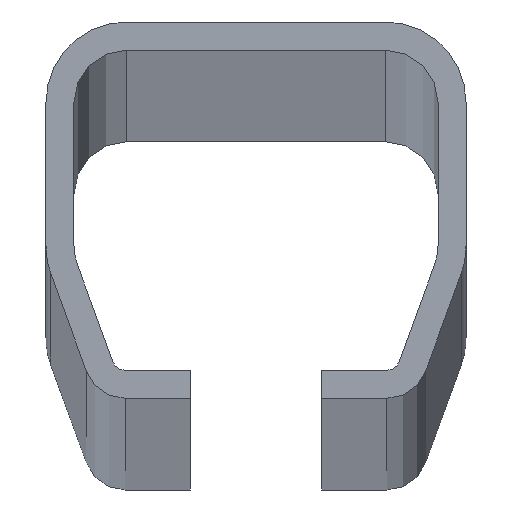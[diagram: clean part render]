
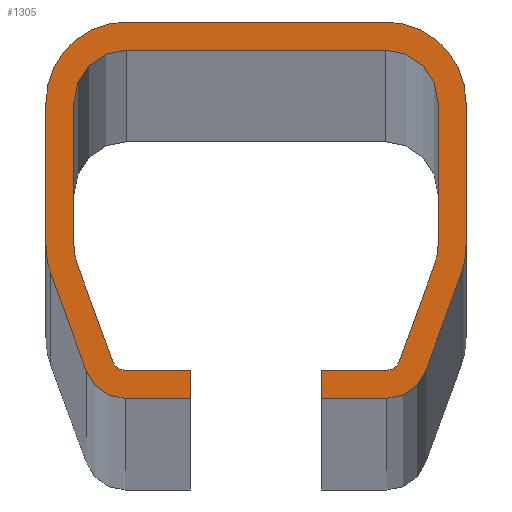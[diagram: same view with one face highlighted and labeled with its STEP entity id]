
A CAD part, top view. The second image highlights one B-rep face of the part: STEP entity #1305.
In plain terms, the highlighted planar face has unit normal (0, 0, 1).
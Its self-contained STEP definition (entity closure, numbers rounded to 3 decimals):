
#23=CIRCLE('',#1350,4.7);
#25=CIRCLE('',#1354,9.2);
#27=CIRCLE('',#1358,9.2);
#29=CIRCLE('',#1362,9.2);
#31=CIRCLE('',#1366,9.2);
#33=CIRCLE('',#1370,4.7);
#35=CIRCLE('',#1376,1.5);
#37=CIRCLE('',#1380,6.);
#39=CIRCLE('',#1384,6.);
#41=CIRCLE('',#1388,6.);
#43=CIRCLE('',#1392,6.);
#45=CIRCLE('',#1396,1.5);
#127=FACE_OUTER_BOUND('',#205,.T.);
#205=EDGE_LOOP('',(#1123,#1124,#1125,#1126,#1127,#1128,#1129,#1130,#1131,
#1132,#1133,#1134,#1135,#1136,#1137,#1138,#1139,#1140,#1141,#1142,#1143,
#1144,#1145,#1146,#1147,#1148,#1149,#1150));
#305=LINE('',#1961,#461);
#309=LINE('',#1973,#465);
#313=LINE('',#1985,#469);
#317=LINE('',#1997,#473);
#321=LINE('',#2009,#477);
#325=LINE('',#2021,#481);
#328=LINE('',#2027,#484);
#331=LINE('',#2033,#487);
#335=LINE('',#2045,#491);
#339=LINE('',#2057,#495);
#343=LINE('',#2069,#499);
#347=LINE('',#2081,#503);
#351=LINE('',#2093,#507);
#355=LINE('',#2105,#511);
#358=LINE('',#2111,#514);
#361=LINE('',#2116,#517);
#461=VECTOR('',#1591,11.901);
#465=VECTOR('',#1603,16.378);
#469=VECTOR('',#1615,29.6);
#473=VECTOR('',#1627,16.378);
#477=VECTOR('',#1639,11.901);
#481=VECTOR('',#1651,7.458);
#484=VECTOR('',#1656,3.2);
#487=VECTOR('',#1661,7.458);
#491=VECTOR('',#1673,11.901);
#495=VECTOR('',#1685,16.378);
#499=VECTOR('',#1697,29.6);
#503=VECTOR('',#1709,16.378);
#507=VECTOR('',#1721,11.901);
#511=VECTOR('',#1733,7.458);
#514=VECTOR('',#1738,3.2);
#517=VECTOR('',#1743,7.458);
#583=VERTEX_POINT('',#1951);
#584=VERTEX_POINT('',#1952);
#587=VERTEX_POINT('',#1960);
#589=VERTEX_POINT('',#1966);
#591=VERTEX_POINT('',#1972);
#593=VERTEX_POINT('',#1978);
#595=VERTEX_POINT('',#1984);
#597=VERTEX_POINT('',#1990);
#599=VERTEX_POINT('',#1996);
#601=VERTEX_POINT('',#2002);
#603=VERTEX_POINT('',#2008);
#605=VERTEX_POINT('',#2014);
#607=VERTEX_POINT('',#2020);
#609=VERTEX_POINT('',#2026);
#611=VERTEX_POINT('',#2032);
#613=VERTEX_POINT('',#2038);
#615=VERTEX_POINT('',#2044);
#617=VERTEX_POINT('',#2050);
#619=VERTEX_POINT('',#2056);
#621=VERTEX_POINT('',#2062);
#623=VERTEX_POINT('',#2068);
#625=VERTEX_POINT('',#2074);
#627=VERTEX_POINT('',#2080);
#629=VERTEX_POINT('',#2086);
#631=VERTEX_POINT('',#2092);
#633=VERTEX_POINT('',#2098);
#635=VERTEX_POINT('',#2104);
#637=VERTEX_POINT('',#2110);
#735=EDGE_CURVE('',#583,#584,#23,.T.);
#739=EDGE_CURVE('',#584,#587,#305,.T.);
#742=EDGE_CURVE('',#587,#589,#25,.T.);
#745=EDGE_CURVE('',#589,#591,#309,.T.);
#748=EDGE_CURVE('',#591,#593,#27,.T.);
#751=EDGE_CURVE('',#593,#595,#313,.T.);
#754=EDGE_CURVE('',#595,#597,#29,.T.);
#757=EDGE_CURVE('',#597,#599,#317,.T.);
#760=EDGE_CURVE('',#599,#601,#31,.T.);
#763=EDGE_CURVE('',#601,#603,#321,.T.);
#766=EDGE_CURVE('',#603,#605,#33,.T.);
#769=EDGE_CURVE('',#605,#607,#325,.T.);
#772=EDGE_CURVE('',#607,#609,#328,.T.);
#775=EDGE_CURVE('',#609,#611,#331,.T.);
#778=EDGE_CURVE('',#611,#613,#35,.T.);
#781=EDGE_CURVE('',#613,#615,#335,.T.);
#784=EDGE_CURVE('',#615,#617,#37,.T.);
#787=EDGE_CURVE('',#617,#619,#339,.T.);
#790=EDGE_CURVE('',#619,#621,#39,.T.);
#793=EDGE_CURVE('',#621,#623,#343,.T.);
#796=EDGE_CURVE('',#623,#625,#41,.T.);
#799=EDGE_CURVE('',#625,#627,#347,.T.);
#802=EDGE_CURVE('',#627,#629,#43,.T.);
#805=EDGE_CURVE('',#629,#631,#351,.T.);
#808=EDGE_CURVE('',#631,#633,#45,.T.);
#811=EDGE_CURVE('',#633,#635,#355,.T.);
#814=EDGE_CURVE('',#635,#637,#358,.T.);
#817=EDGE_CURVE('',#637,#583,#361,.T.);
#1123=ORIENTED_EDGE('',*,*,#735,.F.);
#1124=ORIENTED_EDGE('',*,*,#817,.F.);
#1125=ORIENTED_EDGE('',*,*,#814,.F.);
#1126=ORIENTED_EDGE('',*,*,#811,.F.);
#1127=ORIENTED_EDGE('',*,*,#808,.F.);
#1128=ORIENTED_EDGE('',*,*,#805,.F.);
#1129=ORIENTED_EDGE('',*,*,#802,.F.);
#1130=ORIENTED_EDGE('',*,*,#799,.F.);
#1131=ORIENTED_EDGE('',*,*,#796,.F.);
#1132=ORIENTED_EDGE('',*,*,#793,.F.);
#1133=ORIENTED_EDGE('',*,*,#790,.F.);
#1134=ORIENTED_EDGE('',*,*,#787,.F.);
#1135=ORIENTED_EDGE('',*,*,#784,.F.);
#1136=ORIENTED_EDGE('',*,*,#781,.F.);
#1137=ORIENTED_EDGE('',*,*,#778,.F.);
#1138=ORIENTED_EDGE('',*,*,#775,.F.);
#1139=ORIENTED_EDGE('',*,*,#772,.F.);
#1140=ORIENTED_EDGE('',*,*,#769,.F.);
#1141=ORIENTED_EDGE('',*,*,#766,.F.);
#1142=ORIENTED_EDGE('',*,*,#763,.F.);
#1143=ORIENTED_EDGE('',*,*,#760,.F.);
#1144=ORIENTED_EDGE('',*,*,#757,.F.);
#1145=ORIENTED_EDGE('',*,*,#754,.F.);
#1146=ORIENTED_EDGE('',*,*,#751,.F.);
#1147=ORIENTED_EDGE('',*,*,#748,.F.);
#1148=ORIENTED_EDGE('',*,*,#745,.F.);
#1149=ORIENTED_EDGE('',*,*,#742,.F.);
#1150=ORIENTED_EDGE('',*,*,#739,.F.);
#1235=PLANE('',#1401);
#1305=ADVANCED_FACE('',(#127),#1235,.T.);
#1350=AXIS2_PLACEMENT_3D('',#1953,#1583,#1584);
#1354=AXIS2_PLACEMENT_3D('',#1967,#1596,#1597);
#1358=AXIS2_PLACEMENT_3D('',#1979,#1608,#1609);
#1362=AXIS2_PLACEMENT_3D('',#1991,#1620,#1621);
#1366=AXIS2_PLACEMENT_3D('',#2003,#1632,#1633);
#1370=AXIS2_PLACEMENT_3D('',#2015,#1644,#1645);
#1376=AXIS2_PLACEMENT_3D('',#2039,#1666,#1667);
#1380=AXIS2_PLACEMENT_3D('',#2051,#1678,#1679);
#1384=AXIS2_PLACEMENT_3D('',#2063,#1690,#1691);
#1388=AXIS2_PLACEMENT_3D('',#2075,#1702,#1703);
#1392=AXIS2_PLACEMENT_3D('',#2087,#1714,#1715);
#1396=AXIS2_PLACEMENT_3D('',#2099,#1726,#1727);
#1401=AXIS2_PLACEMENT_3D('',#2118,#1745,#1746);
#1583=DIRECTION('center_axis',(0.,0.,-1.));
#1584=DIRECTION('ref_axis',(0.94,0.342,0.));
#1591=DIRECTION('',(-0.342,0.94,0.));
#1596=DIRECTION('center_axis',(0.,0.,-1.));
#1597=DIRECTION('ref_axis',(1.,0.,0.));
#1603=DIRECTION('',(0.,1.,0.));
#1608=DIRECTION('center_axis',(0.,0.,-1.));
#1609=DIRECTION('ref_axis',(0.,-1.,0.));
#1615=DIRECTION('',(1.,0.,0.));
#1620=DIRECTION('center_axis',(0.,0.,-1.));
#1621=DIRECTION('ref_axis',(-1.,0.,0.));
#1627=DIRECTION('',(0.,-1.,0.));
#1632=DIRECTION('center_axis',(0.,0.,-1.));
#1633=DIRECTION('ref_axis',(-0.94,0.342,0.));
#1639=DIRECTION('',(-0.342,-0.94,0.));
#1644=DIRECTION('center_axis',(0.,0.,-1.));
#1645=DIRECTION('ref_axis',(0.,1.,0.));
#1651=DIRECTION('',(-1.,0.,0.));
#1656=DIRECTION('',(0.,1.,0.));
#1661=DIRECTION('',(1.,0.,0.));
#1666=DIRECTION('center_axis',(0.,0.,1.));
#1667=DIRECTION('ref_axis',(0.,-1.,0.));
#1673=DIRECTION('',(0.342,0.94,0.));
#1678=DIRECTION('center_axis',(0.,0.,1.));
#1679=DIRECTION('ref_axis',(0.94,-0.342,0.));
#1685=DIRECTION('',(0.,1.,0.));
#1690=DIRECTION('center_axis',(0.,0.,1.));
#1691=DIRECTION('ref_axis',(1.,0.,0.));
#1697=DIRECTION('',(-1.,0.,0.));
#1702=DIRECTION('center_axis',(0.,0.,1.));
#1703=DIRECTION('ref_axis',(0.,1.,0.));
#1709=DIRECTION('',(0.,-1.,0.));
#1714=DIRECTION('center_axis',(0.,0.,1.));
#1715=DIRECTION('ref_axis',(-1.,0.,0.));
#1721=DIRECTION('',(0.342,-0.94,0.));
#1726=DIRECTION('center_axis',(0.,0.,1.));
#1727=DIRECTION('ref_axis',(-0.94,-0.342,0.));
#1733=DIRECTION('',(1.,0.,0.));
#1738=DIRECTION('',(0.,-1.,0.));
#1743=DIRECTION('',(-1.,0.,0.));
#1745=DIRECTION('center_axis',(0.,0.,1.));
#1746=DIRECTION('ref_axis',(1.,0.,0.));
#1951=CARTESIAN_POINT('',(-14.958,-3.2,6000.));
#1952=CARTESIAN_POINT('',(-19.375,-0.107,6000.));
#1953=CARTESIAN_POINT('Origin',(-14.958,1.5,6000.));
#1960=CARTESIAN_POINT('',(-23.445,11.076,6000.));
#1961=CARTESIAN_POINT('',(-19.375,-0.107,6000.));
#1966=CARTESIAN_POINT('',(-24.,14.222,6000.));
#1967=CARTESIAN_POINT('Origin',(-14.8,14.222,6000.));
#1972=CARTESIAN_POINT('',(-24.,30.6,6000.));
#1973=CARTESIAN_POINT('',(-24.,14.222,6000.));
#1978=CARTESIAN_POINT('',(-14.8,39.8,6000.));
#1979=CARTESIAN_POINT('Origin',(-14.8,30.6,6000.));
#1984=CARTESIAN_POINT('',(14.8,39.8,6000.));
#1985=CARTESIAN_POINT('',(-14.8,39.8,6000.));
#1990=CARTESIAN_POINT('',(24.,30.6,6000.));
#1991=CARTESIAN_POINT('Origin',(14.8,30.6,6000.));
#1996=CARTESIAN_POINT('',(24.,14.222,6000.));
#1997=CARTESIAN_POINT('',(24.,30.6,6000.));
#2002=CARTESIAN_POINT('',(23.445,11.076,6000.));
#2003=CARTESIAN_POINT('Origin',(14.8,14.222,6000.));
#2008=CARTESIAN_POINT('',(19.375,-0.107,6000.));
#2009=CARTESIAN_POINT('',(23.445,11.076,6000.));
#2014=CARTESIAN_POINT('',(14.958,-3.2,6000.));
#2015=CARTESIAN_POINT('Origin',(14.958,1.5,6000.));
#2020=CARTESIAN_POINT('',(7.5,-3.2,6000.));
#2021=CARTESIAN_POINT('',(14.958,-3.2,6000.));
#2026=CARTESIAN_POINT('',(7.5,0.,6000.));
#2027=CARTESIAN_POINT('',(7.5,-3.2,6000.));
#2032=CARTESIAN_POINT('',(14.958,0.,6000.));
#2033=CARTESIAN_POINT('',(7.5,0.,6000.));
#2038=CARTESIAN_POINT('',(16.368,0.987,6000.));
#2039=CARTESIAN_POINT('Origin',(14.958,1.5,6000.));
#2044=CARTESIAN_POINT('',(20.438,12.17,6000.));
#2045=CARTESIAN_POINT('',(16.368,0.987,6000.));
#2050=CARTESIAN_POINT('',(20.8,14.222,6000.));
#2051=CARTESIAN_POINT('Origin',(14.8,14.222,6000.));
#2056=CARTESIAN_POINT('',(20.8,30.6,6000.));
#2057=CARTESIAN_POINT('',(20.8,14.222,6000.));
#2062=CARTESIAN_POINT('',(14.8,36.6,6000.));
#2063=CARTESIAN_POINT('Origin',(14.8,30.6,6000.));
#2068=CARTESIAN_POINT('',(-14.8,36.6,6000.));
#2069=CARTESIAN_POINT('',(14.8,36.6,6000.));
#2074=CARTESIAN_POINT('',(-20.8,30.6,6000.));
#2075=CARTESIAN_POINT('Origin',(-14.8,30.6,6000.));
#2080=CARTESIAN_POINT('',(-20.8,14.222,6000.));
#2081=CARTESIAN_POINT('',(-20.8,30.6,6000.));
#2086=CARTESIAN_POINT('',(-20.438,12.17,6000.));
#2087=CARTESIAN_POINT('Origin',(-14.8,14.222,6000.));
#2092=CARTESIAN_POINT('',(-16.368,0.987,6000.));
#2093=CARTESIAN_POINT('',(-20.438,12.17,6000.));
#2098=CARTESIAN_POINT('',(-14.958,0.,6000.));
#2099=CARTESIAN_POINT('Origin',(-14.958,1.5,6000.));
#2104=CARTESIAN_POINT('',(-7.5,0.,6000.));
#2105=CARTESIAN_POINT('',(-14.958,0.,6000.));
#2110=CARTESIAN_POINT('',(-7.5,-3.2,6000.));
#2111=CARTESIAN_POINT('',(-7.5,0.,6000.));
#2116=CARTESIAN_POINT('',(-7.5,-3.2,6000.));
#2118=CARTESIAN_POINT('Origin',(0.,20.457,6000.));
